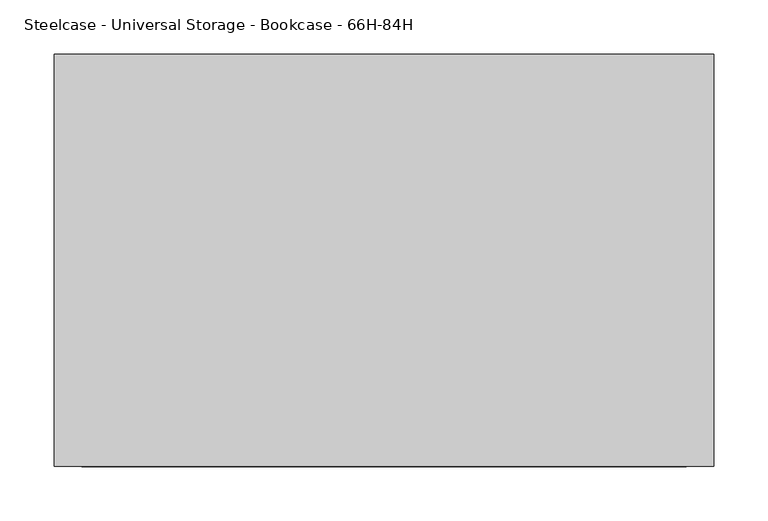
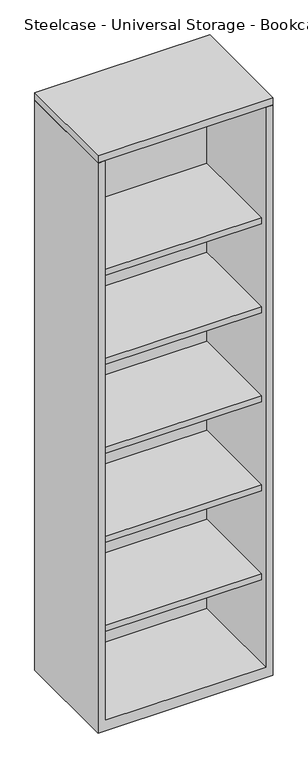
"""IFC4 building model written with IfcOpenShell, lengths in millimetres: furniture geometry, Steelcase - Universal Storage - Bookcase - 66H-84H : 83 1/2H x 24W."""

from ifc_helpers import new_model, si_unit, frame, origin, place, context, project, spatial, polyline, outline, extrude, faceted_brep, source, transform, mapped, element, save


def steelcase_universal_storage_bookcase_66h_84h_27c1a9e1(model_context):
    return source(origin(), model_context, "Body", "SolidModel", [
        extrude(outline(polyline([(609.6, -98.552), (609.6, -479.552), (0.0, -479.552), (0.0, -98.552), (609.6, -98.552)])), frame((0.0, 0.0, 2097.0239516), z_axis=(0.0, 0.0, 1.0), x_axis=(1.0, 0.0, 0.0)), (0.0, 0.0, 1.0), 25.4000484),
        extrude(outline(polyline([(584.2000242, -123.9520008), (584.2000242, -454.0250121), (25.4000008, -454.0250121), (25.4000008, -123.9520008), (584.2000242, -123.9520008)])), frame((0.0, 0.0, 344.424), z_axis=(0.0, 0.0, 1.0), x_axis=(1.0, 0.0, 0.0)), (0.0, 0.0, 1.0), 22.2249516),
        extrude(outline(polyline([(584.2000242, -123.9520008), (584.2000242, -454.0250121), (25.4000008, -454.0250121), (25.4000008, -123.9520008), (584.2000242, -123.9520008)])), frame((0.0, 0.0, 671.4489516), z_axis=(0.0, 0.0, 1.0), x_axis=(1.0, 0.0, 0.0)), (0.0, 0.0, 1.0), 22.2249516),
        extrude(outline(polyline([(584.2000242, -123.9520008), (584.2000242, -454.0250121), (25.4000008, -454.0250121), (25.4000008, -123.9520008), (584.2000242, -123.9520008)])), frame((0.0, 0.0, 998.4739031), z_axis=(0.0, 0.0, 1.0), x_axis=(1.0, 0.0, 0.0)), (0.0, 0.0, 1.0), 22.2249516),
        extrude(outline(polyline([(584.2000242, -123.9520008), (584.2000242, -454.0250121), (25.4000008, -454.0250121), (25.4000008, -123.9520008), (584.2000242, -123.9520008)])), frame((0.0, 0.0, 1325.4988547), z_axis=(0.0, 0.0, 1.0), x_axis=(1.0, 0.0, 0.0)), (0.0, 0.0, 1.0), 22.2249516),
        extrude(outline(polyline([(584.2000242, -123.9520008), (584.2000242, -454.0250121), (25.4000008, -454.0250121), (25.4000008, -123.9520008), (584.2000242, -123.9520008)])), frame((0.0, 0.0, 1652.5238062), z_axis=(0.0, 0.0, 1.0), x_axis=(1.0, 0.0, 0.0)), (0.0, 0.0, 1.0), 22.2249516),
        faceted_brep([(25.4000008, -479.552, 38.1), (584.2000242, -479.552, 38.1), (584.2000242, -123.9520008, 38.1), (25.4000008, -123.9520008, 38.1), (609.6, -98.552, 0.0), (609.6, -479.552, 0.0), (0.0, -479.552, 0.0), (0.0, -98.552, 0.0), (0.0, -98.552, 2095.5), (609.6, -98.552, 2095.5), (0.0, -479.552, 2095.5), (609.6, -479.552, 2095.5), (584.2000242, -479.552, 2095.5), (25.4000008, -479.552, 2095.5), (584.2000242, -123.9520008, 2095.5), (25.4000008, -123.9520008, 2095.5)], [[[0, 1, 2, 3]], [[4, 5, 6, 7]], [[4, 7, 8, 9]], [[8, 7, 6, 10]], [[10, 6, 5, 11, 12, 1, 0, 13]], [[11, 5, 4, 9]], [[14, 12, 11, 9, 8, 10, 13, 15]], [[12, 14, 2, 1]], [[15, 13, 0, 3]], [[14, 15, 3, 2]]]),
    ])


if __name__ == "__main__":
    model = new_model("IFC4")
    model_context = context("Model", 3, world=origin())
    ifc_project = project(units=[si_unit("LENGTHUNIT", "METRE", prefix="MILLI")], contexts=[model_context])
    site = spatial("IfcSite", under=ifc_project)
    building = spatial("IfcBuilding", under=site)
    placement = place(None, origin())
    steelcase_universal_storage_bookcase_66h_84h_shape = steelcase_universal_storage_bookcase_66h_84h_27c1a9e1(model_context)
    element("IfcFurniture", 1, ObjectType="Steelcase - Universal Storage - Bookcase - 66H-84H : 83 1/2H x 24W", at=placement, inside=building, context=model_context, shape_type="MappedRepresentation", body=[
        mapped(steelcase_universal_storage_bookcase_66h_84h_shape, transform((0.0, 0.0, 0.0), x_axis=(1.0, 0.0, 0.0), y_axis=(0.0, 1.0, 0.0), z_axis=(0.0, 0.0, 1.0))),
    ])
    save(model, "model.ifc")
